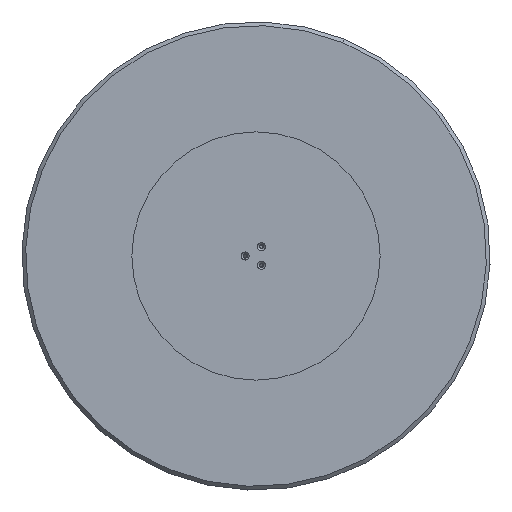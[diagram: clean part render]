
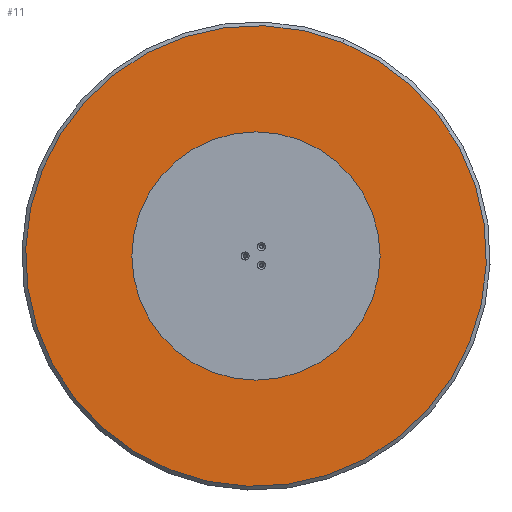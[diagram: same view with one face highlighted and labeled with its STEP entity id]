
A CAD part, front view. The second image highlights one B-rep face of the part: STEP entity #11.
In plain terms, the highlighted planar face has unit normal (0, -1, 0).
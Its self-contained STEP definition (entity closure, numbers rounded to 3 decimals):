
#11 = ADVANCED_FACE ( 'NONE', ( #8498 ), #935, .T. ) ;
#172 = DIRECTION ( 'NONE',  ( 0., 0., -1. ) ) ;
#833 = VERTEX_POINT ( 'NONE', #1175 ) ;
#935 = PLANE ( 'NONE',  #6450 ) ;
#1143 = ORIENTED_EDGE ( 'NONE', *, *, #2320, .T. ) ;
#1175 = CARTESIAN_POINT ( 'NONE',  ( 0., 0., -492. ) ) ;
#1177 = CIRCLE ( 'NONE', #10694, 492. ) ;
#2320 = EDGE_CURVE ( 'NONE', #5926, #833, #1177, .T. ) ;
#2747 = ORIENTED_EDGE ( 'NONE', *, *, #6828, .T. ) ;
#3474 = DIRECTION ( 'NONE',  ( 0., -1., 0. ) ) ;
#4190 = CARTESIAN_POINT ( 'NONE',  ( 0., 0., 0. ) ) ;
#4956 = DIRECTION ( 'NONE',  ( 0., -1., 0. ) ) ;
#5301 = DIRECTION ( 'NONE',  ( 0., 0., -1. ) ) ;
#5926 = VERTEX_POINT ( 'NONE', #10573 ) ;
#6450 = AXIS2_PLACEMENT_3D ( 'NONE', #7656, #3474, #8716 ) ;
#6828 = EDGE_CURVE ( 'NONE', #833, #5926, #7091, .T. ) ;
#7091 = CIRCLE ( 'NONE', #9564, 492. ) ;
#7656 = CARTESIAN_POINT ( 'NONE',  ( 0., 0., 0. ) ) ;
#8498 = FACE_OUTER_BOUND ( 'NONE', #10212, .T. ) ;
#8716 = DIRECTION ( 'NONE',  ( 0., 0., -1. ) ) ;
#9511 = DIRECTION ( 'NONE',  ( 0., -1., 0. ) ) ;
#9564 = AXIS2_PLACEMENT_3D ( 'NONE', #9622, #9511, #5301 ) ;
#9622 = CARTESIAN_POINT ( 'NONE',  ( 0., 0., 0. ) ) ;
#10212 = EDGE_LOOP ( 'NONE', ( #1143, #2747 ) ) ;
#10573 = CARTESIAN_POINT ( 'NONE',  ( 0., 0., 492. ) ) ;
#10694 = AXIS2_PLACEMENT_3D ( 'NONE', #4190, #4956, #172 ) ;
